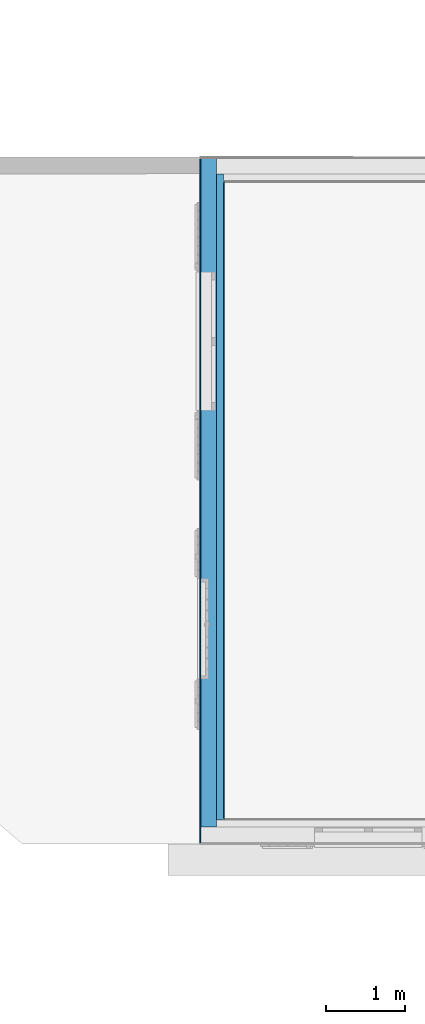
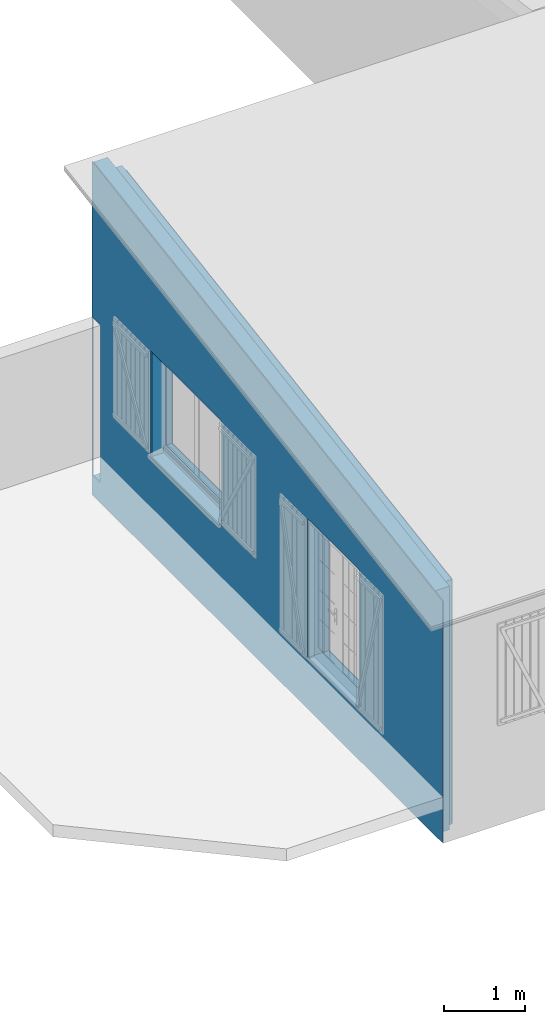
# One storey, part 7 of 12: 4 building element parts, 2 openings, 1 element without a shape of its own.
"""IFC2X3 building model written with IfcOpenShell, lengths in metres."""

from ifc_helpers import new_model, entity, si_unit, converted_unit, derived_unit, money_unit, direction, frame, origin_with_axes, origin_2d_with_axis, place, context, subcontext, project, spatial, polyline, rectangle, outline, extrude, boolean, faceted_brep, material, type_object, element, aggregate, save


model = new_model("IFC2X3")

# Units and contexts
model_context = context("Model", 3, precision=1e-05, world=origin_with_axes(), true_north=direction((0.0, 1.0)))
body_context = subcontext(model_context, "Body", "Model", "MODEL_VIEW")
ifc_project = project(units=[si_unit("LENGTHUNIT", "METRE"), si_unit("AREAUNIT", "SQUARE_METRE"), si_unit("VOLUMEUNIT", "CUBIC_METRE"), converted_unit("PLANEANGLEUNIT", "DEGREE", entity("IfcPlaneAngleMeasure", 0.0174532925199), si_unit("PLANEANGLEUNIT", "RADIAN"), dimensions=[0, 0, 0, 0, 0, 0, 0]), si_unit("SOLIDANGLEUNIT", "STERADIAN"), money_unit("CHF"), converted_unit("TIMEUNIT", "Year", entity("IfcTimeMeasure", 31556926.0), si_unit("TIMEUNIT", "SECOND"), dimensions=[0, 0, 1, 0, 0, 0, 0]), si_unit("MASSUNIT", "GRAM", prefix="KILO"), si_unit("THERMODYNAMICTEMPERATUREUNIT", "DEGREE_CELSIUS"), si_unit("LUMINOUSINTENSITYUNIT", "LUMEN"), si_unit("ENERGYUNIT", "JOULE", prefix="MEGA"), derived_unit("THERMALCONDUCTANCEUNIT", [(si_unit("POWERUNIT", "WATT"), 1), (si_unit("LENGTHUNIT", "METRE"), -1), (si_unit("THERMODYNAMICTEMPERATUREUNIT", "KELVIN"), -1)]), derived_unit("SPECIFICHEATCAPACITYUNIT", [(si_unit("ENERGYUNIT", "JOULE"), 1), (si_unit("MASSUNIT", "GRAM", prefix="KILO"), -1), (si_unit("THERMODYNAMICTEMPERATUREUNIT", "KELVIN"), -1)]), derived_unit("MASSDENSITYUNIT", [(si_unit("MASSUNIT", "GRAM", prefix="KILO"), 1), (si_unit("VOLUMEUNIT", "CUBIC_METRE"), -1)])], contexts=[model_context])

# Site, building, storey
site_placement = place(None, origin_with_axes())
site = spatial("IfcSite", under=ifc_project, at=site_placement, Name="Site", CompositionType="ELEMENT")
building_placement = place(site_placement, origin_with_axes())
building = spatial("IfcBuilding", under=site, at=building_placement, Name="Bâtiment", CompositionType="ELEMENT")
storey_placement = place(building_placement, origin_with_axes())
storey = spatial("IfcBuildingStorey", under=building, at=storey_placement, Name="Rez-de-chaussée", CompositionType="ELEMENT", Elevation=0.0)

# Wall, openings, building element parts
wall_type = type_object("IfcWallType", Name="0.1 - Mur ext: revét ext + maçonnerie + doublage 10cm 315", PredefinedType="ELEMENTEDWALL")
wall_placement = place(storey_placement, frame((11.5671417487, 7.7379346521, -0.6), z_axis=(0.0, 0.0, 1.0), x_axis=(0.0, 1.0, 0.0)))
wall = element("IfcWall", 1, at=wall_placement, inside=storey, type_object=wall_type, Name="MUR_EXT-005", ObjectType="ELEMENTEDWALL")
opening_1_placement = place(wall_placement, frame((6.345, 0.0, 1.55), z_axis=(0.0, 0.0, 1.0), x_axis=(1.0, 0.0, 0.0)))
element("IfcOpeningElement", 2, at=opening_1_placement, cuts=wall, Name="FENETRE-002", context=body_context, shape_type="SweptSolid", body=[
    extrude(rectangle(XDim=1.75, YDim=1.5, at=origin_2d_with_axis()), frame((0.0, -0.15, 0.75), z_axis=(0.0, 1.0, 0.0), x_axis=(-1.0, 0.0, 0.0)), (0.0, 0.0, -1.0), 0.48),
    extrude(rectangle(XDim=1.75, YDim=1.5, at=origin_2d_with_axis()), frame((0.0, -0.15, 0.75), z_axis=(0.0, -1.0, 0.0), x_axis=(-1.0, 0.0, 0.0)), (0.0, 0.0, -1.0), 0.465),
    extrude(rectangle(XDim=1.75, YDim=0.1, at=origin_2d_with_axis()), frame((0.0, -0.185, -0.05), z_axis=(0.0, -1.0, 0.0), x_axis=(-1.0, 0.0, 0.0)), (0.0, 0.0, -1.0), 0.35),
])
opening_2_placement = place(wall_placement, frame((2.715, 0.0, 0.77), z_axis=(0.0, 0.0, 1.0), x_axis=(1.0, 0.0, 0.0)))
element("IfcOpeningElement", 3, at=opening_2_placement, cuts=wall, Name="PORTE-003", context=body_context, shape_type="SweptSolid", body=[
    extrude(rectangle(XDim=1.27, YDim=2.1, at=origin_2d_with_axis()), frame((0.0, -0.315, 1.05), z_axis=(0.0, -1.0, 0.0), x_axis=(1.0, 0.0, 0.0)), (0.0, 0.0, -1.0), 0.945),
])
ifc_material_1 = material(Name="Finition int - Plaque de plâtre")
building_element_part_1_placement = place(wall_placement, origin_with_axes())
building_element_part_1 = element("IfcBuildingElementPart", 4, at=building_element_part_1_placement, material=ifc_material_1, Name="Finition int - Plaque de plâtre", context=body_context, shape_type="CSG", body=[
    boolean("DIFFERENCE", boolean("DIFFERENCE", boolean("DIFFERENCE", boolean("DIFFERENCE", boolean("DIFFERENCE", extrude(outline(polyline([(0.0, -0.315), (8.67, -0.315), (8.67, -0.305), (0.0, -0.305), (0.0, -0.315)])), origin_with_axes(), (0.0, 0.0, 1.0), 5.5967588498), faceted_brep([(0.315, -0.315, 0.0), (0.315, -0.315, 3.6903999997), (8.365, -0.315, 4.9783999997), (8.365, -0.315, 0.0), (8.67, -0.315, 0.0), (8.67, -0.315, 5.5967588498), (0.0, -0.315, 5.5967588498), (0.0, -0.315, 0.0), (0.315, -0.305, 0.0), (0.315, -0.305, 3.6903999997), (8.365, -0.305, 4.9783999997), (8.365, -0.305, 0.0), (8.67, -0.305, 0.0), (8.67, -0.305, 5.5967588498), (0.0, -0.305, 5.5967588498), (0.0, -0.305, 0.0)], [[[0, 1, 2, 3, 4, 5, 6, 7]], [[1, 0, 8, 9]], [[2, 1, 9, 10]], [[3, 2, 10, 11]], [[3, 11, 12, 4]], [[5, 4, 12, 13]], [[14, 6, 5, 13]], [[14, 15, 7, 6]], [[8, 0, 7, 15]], [[9, 8, 15, 14, 13, 12, 11, 10]]])), faceted_brep([(0.305, -0.305, 3.6887999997), (8.455, -0.305, 4.9927999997), (8.455, -0.305, 0.0), (8.67, -0.305, 0.0), (8.67, -0.305, 5.5967588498), (0.0, -0.305, 5.5967588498), (0.0, -0.305, 0.0), (0.305, -0.305, 0.0), (0.305, -0.215, 3.6887999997), (8.455, -0.215, 4.9927999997), (8.455, -0.215, 0.0), (8.67, -0.215, 0.0), (8.67, -0.215, 5.5967588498), (0.0, -0.215, 5.5967588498), (0.0, -0.215, 0.0), (0.305, -0.215, 0.0)], [[[0, 1, 2, 3, 4, 5, 6, 7]], [[1, 0, 8, 9]], [[2, 1, 9, 10]], [[2, 10, 11, 3]], [[4, 3, 11, 12]], [[13, 5, 4, 12]], [[13, 14, 6, 5]], [[15, 7, 6, 14]], [[0, 7, 15, 8]], [[8, 15, 14, 13, 12, 11, 10, 9]]])), faceted_brep([(0.215, -0.215, 3.6743999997), (8.655, -0.215, 5.0247999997), (8.655, -0.215, 2.68277264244), (8.47516818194, -0.215, 2.68277264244), (8.47516818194, -0.215, 0.3), (8.655, -0.215, 0.3), (8.655, -0.215, 0.0), (8.67, -0.215, 0.0), (8.67, -0.215, 5.5967588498), (0.0, -0.215, 5.5967588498), (0.0, -0.215, 0.0), (0.215, -0.215, 0.0), (0.215, -0.015, 3.6743999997), (8.655, -0.015, 5.0247999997), (8.655, -0.015, 2.68277264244), (8.47501167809, -0.015, 2.68277264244), (8.47501167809, -0.015, 0.3), (8.655, -0.015, 0.3), (8.655, -0.015, 0.0), (8.67, -0.015, 0.0), (8.67, -0.015, 5.5967588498), (0.0, -0.015, 5.5967588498), (0.0, -0.015, 0.0), (0.215, -0.015, 0.0)], [[[0, 1, 2, 3, 4, 5, 6, 7, 8, 9, 10, 11]], [[1, 0, 12, 13]], [[2, 1, 13, 14]], [[3, 2, 14, 15]], [[4, 3, 15, 16]], [[5, 4, 16, 17]], [[6, 5, 17, 18]], [[6, 18, 19, 7]], [[8, 7, 19, 20]], [[21, 9, 8, 20]], [[21, 22, 10, 9]], [[23, 11, 10, 22]], [[0, 11, 23, 12]], [[12, 23, 22, 21, 20, 19, 18, 17, 16, 15, 14, 13]]])), faceted_brep([(8.4749999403, 0.0, 0.3), (8.4749999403, 0.0, 2.68277264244), (8.65499999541, 0.0, 2.68277264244), (8.65499999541, 0.0, 0.3), (8.47501167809, -0.015, 0.3), (8.47501167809, -0.015, 2.68277264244), (8.6550117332, -0.015, 2.68277264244), (8.6550117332, -0.015, 0.3)], [[[0, 1, 2, 3]], [[1, 0, 4, 5]], [[6, 2, 1, 5]], [[6, 7, 3, 2]], [[7, 4, 0, 3]], [[7, 6, 5, 4]]])), faceted_brep([(0.015, -0.015, 3.6423999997), (8.66903281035, -0.015, 5.02704524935), (8.66903281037, -0.015, 0.0), (8.67, -0.015, 0.0), (8.67, -0.015, 5.5967588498), (0.0, -0.015, 5.5967588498), (0.0, -0.015, 0.0), (0.015, -0.015, 0.0), (0.015, 0.0, 3.6423999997), (8.66906776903, 0.0, 5.02705084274), (8.66906776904, 0.0, 0.0), (8.67, 0.0, 0.0), (8.67, 0.0, 5.5967588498), (0.0, 0.0, 5.5967588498), (0.0, 0.0, 0.0), (0.015, 0.0, 0.0)], [[[0, 1, 2, 3, 4, 5, 6, 7]], [[1, 0, 8, 9]], [[2, 1, 9, 10]], [[2, 10, 11, 3]], [[4, 3, 11, 12]], [[13, 5, 4, 12]], [[13, 14, 6, 5]], [[15, 7, 6, 14]], [[0, 7, 15, 8]], [[8, 15, 14, 13, 12, 11, 10, 9]]])),
])
ifc_material_2 = material(Name="Isolation - Laine de verre")
building_element_part_2_placement = place(wall_placement, origin_with_axes())
building_element_part_2 = element("IfcBuildingElementPart", 5, at=building_element_part_2_placement, material=ifc_material_2, Name="Isolation - Laine de verre", context=body_context, shape_type="CSG", body=[
    boolean("DIFFERENCE", boolean("DIFFERENCE", boolean("DIFFERENCE", boolean("DIFFERENCE", boolean("DIFFERENCE", extrude(outline(polyline([(0.0, -0.305), (8.67, -0.305), (8.67, -0.215), (0.0, -0.215), (0.0, -0.305)])), origin_with_axes(), (0.0, 0.0, 1.0), 5.5967588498), faceted_brep([(0.315, -0.315, 0.0), (0.315, -0.315, 3.6903999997), (8.365, -0.315, 4.9783999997), (8.365, -0.315, 0.0), (8.67, -0.315, 0.0), (8.67, -0.315, 5.5967588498), (0.0, -0.315, 5.5967588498), (0.0, -0.315, 0.0), (0.315, -0.305, 0.0), (0.315, -0.305, 3.6903999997), (8.365, -0.305, 4.9783999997), (8.365, -0.305, 0.0), (8.67, -0.305, 0.0), (8.67, -0.305, 5.5967588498), (0.0, -0.305, 5.5967588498), (0.0, -0.305, 0.0)], [[[0, 1, 2, 3, 4, 5, 6, 7]], [[1, 0, 8, 9]], [[2, 1, 9, 10]], [[3, 2, 10, 11]], [[3, 11, 12, 4]], [[5, 4, 12, 13]], [[14, 6, 5, 13]], [[14, 15, 7, 6]], [[8, 0, 7, 15]], [[9, 8, 15, 14, 13, 12, 11, 10]]])), faceted_brep([(0.305, -0.305, 3.6887999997), (8.455, -0.305, 4.9927999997), (8.455, -0.305, 0.0), (8.67, -0.305, 0.0), (8.67, -0.305, 5.5967588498), (0.0, -0.305, 5.5967588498), (0.0, -0.305, 0.0), (0.305, -0.305, 0.0), (0.305, -0.215, 3.6887999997), (8.455, -0.215, 4.9927999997), (8.455, -0.215, 0.0), (8.67, -0.215, 0.0), (8.67, -0.215, 5.5967588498), (0.0, -0.215, 5.5967588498), (0.0, -0.215, 0.0), (0.305, -0.215, 0.0)], [[[0, 1, 2, 3, 4, 5, 6, 7]], [[1, 0, 8, 9]], [[2, 1, 9, 10]], [[2, 10, 11, 3]], [[4, 3, 11, 12]], [[13, 5, 4, 12]], [[13, 14, 6, 5]], [[15, 7, 6, 14]], [[0, 7, 15, 8]], [[8, 15, 14, 13, 12, 11, 10, 9]]])), faceted_brep([(0.215, -0.215, 3.6743999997), (8.655, -0.215, 5.0247999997), (8.655, -0.215, 2.68277264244), (8.47516818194, -0.215, 2.68277264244), (8.47516818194, -0.215, 0.3), (8.655, -0.215, 0.3), (8.655, -0.215, 0.0), (8.67, -0.215, 0.0), (8.67, -0.215, 5.5967588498), (0.0, -0.215, 5.5967588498), (0.0, -0.215, 0.0), (0.215, -0.215, 0.0), (0.215, -0.015, 3.6743999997), (8.655, -0.015, 5.0247999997), (8.655, -0.015, 2.68277264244), (8.47501167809, -0.015, 2.68277264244), (8.47501167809, -0.015, 0.3), (8.655, -0.015, 0.3), (8.655, -0.015, 0.0), (8.67, -0.015, 0.0), (8.67, -0.015, 5.5967588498), (0.0, -0.015, 5.5967588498), (0.0, -0.015, 0.0), (0.215, -0.015, 0.0)], [[[0, 1, 2, 3, 4, 5, 6, 7, 8, 9, 10, 11]], [[1, 0, 12, 13]], [[2, 1, 13, 14]], [[3, 2, 14, 15]], [[4, 3, 15, 16]], [[5, 4, 16, 17]], [[6, 5, 17, 18]], [[6, 18, 19, 7]], [[8, 7, 19, 20]], [[21, 9, 8, 20]], [[21, 22, 10, 9]], [[23, 11, 10, 22]], [[0, 11, 23, 12]], [[12, 23, 22, 21, 20, 19, 18, 17, 16, 15, 14, 13]]])), faceted_brep([(8.4749999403, 0.0, 0.3), (8.4749999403, 0.0, 2.68277264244), (8.65499999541, 0.0, 2.68277264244), (8.65499999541, 0.0, 0.3), (8.47501167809, -0.015, 0.3), (8.47501167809, -0.015, 2.68277264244), (8.6550117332, -0.015, 2.68277264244), (8.6550117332, -0.015, 0.3)], [[[0, 1, 2, 3]], [[1, 0, 4, 5]], [[6, 2, 1, 5]], [[6, 7, 3, 2]], [[7, 4, 0, 3]], [[7, 6, 5, 4]]])), faceted_brep([(0.015, -0.015, 3.6423999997), (8.66903281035, -0.015, 5.02704524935), (8.66903281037, -0.015, 0.0), (8.67, -0.015, 0.0), (8.67, -0.015, 5.5967588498), (0.0, -0.015, 5.5967588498), (0.0, -0.015, 0.0), (0.015, -0.015, 0.0), (0.015, 0.0, 3.6423999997), (8.66906776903, 0.0, 5.02705084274), (8.66906776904, 0.0, 0.0), (8.67, 0.0, 0.0), (8.67, 0.0, 5.5967588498), (0.0, 0.0, 5.5967588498), (0.0, 0.0, 0.0), (0.015, 0.0, 0.0)], [[[0, 1, 2, 3, 4, 5, 6, 7]], [[1, 0, 8, 9]], [[2, 1, 9, 10]], [[2, 10, 11, 3]], [[4, 3, 11, 12]], [[13, 5, 4, 12]], [[13, 14, 6, 5]], [[15, 7, 6, 14]], [[0, 7, 15, 8]], [[8, 15, 14, 13, 12, 11, 10, 9]]])),
])
ifc_material_3 = material(Name="Brique ciment (extérieur)")
building_element_part_3_placement = place(wall_placement, origin_with_axes())
building_element_part_3 = element("IfcBuildingElementPart", 6, at=building_element_part_3_placement, material=ifc_material_3, Name="Brique ciment (extérieur)", context=body_context, shape_type="CSG", body=[
    boolean("DIFFERENCE", boolean("DIFFERENCE", boolean("DIFFERENCE", boolean("DIFFERENCE", boolean("DIFFERENCE", extrude(outline(polyline([(0.0, -0.215), (8.67, -0.215), (8.67, -0.015), (0.0, -0.015), (0.0, -0.215)])), origin_with_axes(), (0.0, 0.0, 1.0), 5.5967588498), faceted_brep([(0.315, -0.315, 0.0), (0.315, -0.315, 3.6903999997), (8.365, -0.315, 4.9783999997), (8.365, -0.315, 0.0), (8.67, -0.315, 0.0), (8.67, -0.315, 5.5967588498), (0.0, -0.315, 5.5967588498), (0.0, -0.315, 0.0), (0.315, -0.305, 0.0), (0.315, -0.305, 3.6903999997), (8.365, -0.305, 4.9783999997), (8.365, -0.305, 0.0), (8.67, -0.305, 0.0), (8.67, -0.305, 5.5967588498), (0.0, -0.305, 5.5967588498), (0.0, -0.305, 0.0)], [[[0, 1, 2, 3, 4, 5, 6, 7]], [[1, 0, 8, 9]], [[2, 1, 9, 10]], [[3, 2, 10, 11]], [[3, 11, 12, 4]], [[5, 4, 12, 13]], [[14, 6, 5, 13]], [[14, 15, 7, 6]], [[8, 0, 7, 15]], [[9, 8, 15, 14, 13, 12, 11, 10]]])), faceted_brep([(0.305, -0.305, 3.6887999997), (8.455, -0.305, 4.9927999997), (8.455, -0.305, 0.0), (8.67, -0.305, 0.0), (8.67, -0.305, 5.5967588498), (0.0, -0.305, 5.5967588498), (0.0, -0.305, 0.0), (0.305, -0.305, 0.0), (0.305, -0.215, 3.6887999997), (8.455, -0.215, 4.9927999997), (8.455, -0.215, 0.0), (8.67, -0.215, 0.0), (8.67, -0.215, 5.5967588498), (0.0, -0.215, 5.5967588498), (0.0, -0.215, 0.0), (0.305, -0.215, 0.0)], [[[0, 1, 2, 3, 4, 5, 6, 7]], [[1, 0, 8, 9]], [[2, 1, 9, 10]], [[2, 10, 11, 3]], [[4, 3, 11, 12]], [[13, 5, 4, 12]], [[13, 14, 6, 5]], [[15, 7, 6, 14]], [[0, 7, 15, 8]], [[8, 15, 14, 13, 12, 11, 10, 9]]])), faceted_brep([(0.215, -0.215, 3.6743999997), (8.655, -0.215, 5.0247999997), (8.655, -0.215, 2.68277264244), (8.47516818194, -0.215, 2.68277264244), (8.47516818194, -0.215, 0.3), (8.655, -0.215, 0.3), (8.655, -0.215, 0.0), (8.67, -0.215, 0.0), (8.67, -0.215, 5.5967588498), (0.0, -0.215, 5.5967588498), (0.0, -0.215, 0.0), (0.215, -0.215, 0.0), (0.215, -0.015, 3.6743999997), (8.655, -0.015, 5.0247999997), (8.655, -0.015, 2.68277264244), (8.47501167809, -0.015, 2.68277264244), (8.47501167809, -0.015, 0.3), (8.655, -0.015, 0.3), (8.655, -0.015, 0.0), (8.67, -0.015, 0.0), (8.67, -0.015, 5.5967588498), (0.0, -0.015, 5.5967588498), (0.0, -0.015, 0.0), (0.215, -0.015, 0.0)], [[[0, 1, 2, 3, 4, 5, 6, 7, 8, 9, 10, 11]], [[1, 0, 12, 13]], [[2, 1, 13, 14]], [[3, 2, 14, 15]], [[4, 3, 15, 16]], [[5, 4, 16, 17]], [[6, 5, 17, 18]], [[6, 18, 19, 7]], [[8, 7, 19, 20]], [[21, 9, 8, 20]], [[21, 22, 10, 9]], [[23, 11, 10, 22]], [[0, 11, 23, 12]], [[12, 23, 22, 21, 20, 19, 18, 17, 16, 15, 14, 13]]])), faceted_brep([(8.4749999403, 0.0, 0.3), (8.4749999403, 0.0, 2.68277264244), (8.65499999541, 0.0, 2.68277264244), (8.65499999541, 0.0, 0.3), (8.47501167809, -0.015, 0.3), (8.47501167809, -0.015, 2.68277264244), (8.6550117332, -0.015, 2.68277264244), (8.6550117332, -0.015, 0.3)], [[[0, 1, 2, 3]], [[1, 0, 4, 5]], [[6, 2, 1, 5]], [[6, 7, 3, 2]], [[7, 4, 0, 3]], [[7, 6, 5, 4]]])), faceted_brep([(0.015, -0.015, 3.6423999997), (8.66903281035, -0.015, 5.02704524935), (8.66903281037, -0.015, 0.0), (8.67, -0.015, 0.0), (8.67, -0.015, 5.5967588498), (0.0, -0.015, 5.5967588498), (0.0, -0.015, 0.0), (0.015, -0.015, 0.0), (0.015, 0.0, 3.6423999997), (8.66906776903, 0.0, 5.02705084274), (8.66906776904, 0.0, 0.0), (8.67, 0.0, 0.0), (8.67, 0.0, 5.5967588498), (0.0, 0.0, 5.5967588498), (0.0, 0.0, 0.0), (0.015, 0.0, 0.0)], [[[0, 1, 2, 3, 4, 5, 6, 7]], [[1, 0, 8, 9]], [[2, 1, 9, 10]], [[2, 10, 11, 3]], [[4, 3, 11, 12]], [[13, 5, 4, 12]], [[13, 14, 6, 5]], [[15, 7, 6, 14]], [[0, 7, 15, 8]], [[8, 15, 14, 13, 12, 11, 10, 9]]])),
])
ifc_material_4 = material(Name="Finition ext - Crépis")
building_element_part_4_placement = place(wall_placement, origin_with_axes())
building_element_part_4 = element("IfcBuildingElementPart", 7, at=building_element_part_4_placement, material=ifc_material_4, Name="Finition ext - Crépis", context=body_context, shape_type="CSG", body=[
    boolean("DIFFERENCE", boolean("DIFFERENCE", boolean("DIFFERENCE", boolean("DIFFERENCE", boolean("DIFFERENCE", extrude(outline(polyline([(0.0, -0.015), (8.67, -0.015), (8.67, 0.0), (0.0, 0.0), (0.0, -0.015)])), origin_with_axes(), (0.0, 0.0, 1.0), 5.5967588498), faceted_brep([(0.315, -0.315, 0.0), (0.315, -0.315, 3.6903999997), (8.365, -0.315, 4.9783999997), (8.365, -0.315, 0.0), (8.67, -0.315, 0.0), (8.67, -0.315, 5.5967588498), (0.0, -0.315, 5.5967588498), (0.0, -0.315, 0.0), (0.315, -0.305, 0.0), (0.315, -0.305, 3.6903999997), (8.365, -0.305, 4.9783999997), (8.365, -0.305, 0.0), (8.67, -0.305, 0.0), (8.67, -0.305, 5.5967588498), (0.0, -0.305, 5.5967588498), (0.0, -0.305, 0.0)], [[[0, 1, 2, 3, 4, 5, 6, 7]], [[1, 0, 8, 9]], [[2, 1, 9, 10]], [[3, 2, 10, 11]], [[3, 11, 12, 4]], [[5, 4, 12, 13]], [[14, 6, 5, 13]], [[14, 15, 7, 6]], [[8, 0, 7, 15]], [[9, 8, 15, 14, 13, 12, 11, 10]]])), faceted_brep([(0.305, -0.305, 3.6887999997), (8.455, -0.305, 4.9927999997), (8.455, -0.305, 0.0), (8.67, -0.305, 0.0), (8.67, -0.305, 5.5967588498), (0.0, -0.305, 5.5967588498), (0.0, -0.305, 0.0), (0.305, -0.305, 0.0), (0.305, -0.215, 3.6887999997), (8.455, -0.215, 4.9927999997), (8.455, -0.215, 0.0), (8.67, -0.215, 0.0), (8.67, -0.215, 5.5967588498), (0.0, -0.215, 5.5967588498), (0.0, -0.215, 0.0), (0.305, -0.215, 0.0)], [[[0, 1, 2, 3, 4, 5, 6, 7]], [[1, 0, 8, 9]], [[2, 1, 9, 10]], [[2, 10, 11, 3]], [[4, 3, 11, 12]], [[13, 5, 4, 12]], [[13, 14, 6, 5]], [[15, 7, 6, 14]], [[0, 7, 15, 8]], [[8, 15, 14, 13, 12, 11, 10, 9]]])), faceted_brep([(0.215, -0.215, 3.6743999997), (8.655, -0.215, 5.0247999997), (8.655, -0.215, 2.68277264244), (8.47516818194, -0.215, 2.68277264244), (8.47516818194, -0.215, 0.3), (8.655, -0.215, 0.3), (8.655, -0.215, 0.0), (8.67, -0.215, 0.0), (8.67, -0.215, 5.5967588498), (0.0, -0.215, 5.5967588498), (0.0, -0.215, 0.0), (0.215, -0.215, 0.0), (0.215, -0.015, 3.6743999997), (8.655, -0.015, 5.0247999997), (8.655, -0.015, 2.68277264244), (8.47501167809, -0.015, 2.68277264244), (8.47501167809, -0.015, 0.3), (8.655, -0.015, 0.3), (8.655, -0.015, 0.0), (8.67, -0.015, 0.0), (8.67, -0.015, 5.5967588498), (0.0, -0.015, 5.5967588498), (0.0, -0.015, 0.0), (0.215, -0.015, 0.0)], [[[0, 1, 2, 3, 4, 5, 6, 7, 8, 9, 10, 11]], [[1, 0, 12, 13]], [[2, 1, 13, 14]], [[3, 2, 14, 15]], [[4, 3, 15, 16]], [[5, 4, 16, 17]], [[6, 5, 17, 18]], [[6, 18, 19, 7]], [[8, 7, 19, 20]], [[21, 9, 8, 20]], [[21, 22, 10, 9]], [[23, 11, 10, 22]], [[0, 11, 23, 12]], [[12, 23, 22, 21, 20, 19, 18, 17, 16, 15, 14, 13]]])), faceted_brep([(8.4749999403, 0.0, 0.3), (8.4749999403, 0.0, 2.68277264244), (8.65499999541, 0.0, 2.68277264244), (8.65499999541, 0.0, 0.3), (8.47501167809, -0.015, 0.3), (8.47501167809, -0.015, 2.68277264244), (8.6550117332, -0.015, 2.68277264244), (8.6550117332, -0.015, 0.3)], [[[0, 1, 2, 3]], [[1, 0, 4, 5]], [[6, 2, 1, 5]], [[6, 7, 3, 2]], [[7, 4, 0, 3]], [[7, 6, 5, 4]]])), faceted_brep([(0.015, -0.015, 3.6423999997), (8.66903281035, -0.015, 5.02704524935), (8.66903281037, -0.015, 0.0), (8.67, -0.015, 0.0), (8.67, -0.015, 5.5967588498), (0.0, -0.015, 5.5967588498), (0.0, -0.015, 0.0), (0.015, -0.015, 0.0), (0.015, 0.0, 3.6423999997), (8.66906776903, 0.0, 5.02705084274), (8.66906776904, 0.0, 0.0), (8.67, 0.0, 0.0), (8.67, 0.0, 5.5967588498), (0.0, 0.0, 5.5967588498), (0.0, 0.0, 0.0), (0.015, 0.0, 0.0)], [[[0, 1, 2, 3, 4, 5, 6, 7]], [[1, 0, 8, 9]], [[2, 1, 9, 10]], [[2, 10, 11, 3]], [[4, 3, 11, 12]], [[13, 5, 4, 12]], [[13, 14, 6, 5]], [[15, 7, 6, 14]], [[0, 7, 15, 8]], [[8, 15, 14, 13, 12, 11, 10, 9]]])),
])
aggregate(wall, [building_element_part_1, building_element_part_2, building_element_part_3, building_element_part_4])

save(model, "model.ifc")
